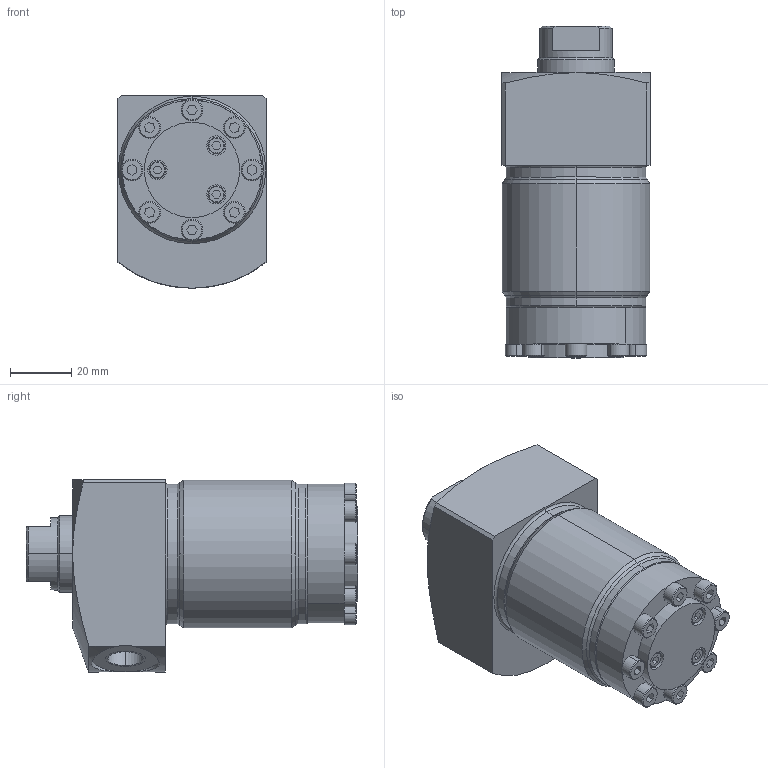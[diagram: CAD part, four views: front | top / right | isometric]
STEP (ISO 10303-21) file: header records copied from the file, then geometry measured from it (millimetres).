
FILE_DESCRIPTION((''),'2;1');
FILE_NAME('PTSD-92_ASM','2011-12-02T',('chad.steele'),(''),'PRO/ENGINEER BY PARAMETRIC TECHNOLOGY CORPORATION, 2010040','PRO/ENGINEER BY PARAMETRIC TECHNOLOGY CORPORATION, 2010040','');
FILE_SCHEMA(('CONFIG_CONTROL_DESIGN'));
Length unit declared in the file: millimetre
Products named in the file (7): CZ361030; CZ363044; CZ393225; CCA319028-1A; CCA421028-1A; DA12024040; PTSD-92_ASM
Assembly tree (15 placements, depth 2):
  PTSD-92_ASM
    CZ361030
    CZ363044
    CZ393225
    CCA319028-1A  x3
    CCA421028-1A  x8
    DA12024040
Bounding box: 48.2 x 108.05 x 62.65 mm (x, y, z)
Volume: 173984.7 mm3; surface area: 60975.3 mm2
Topology: 15 solids, 27 shells, 420 faces, 946 edges, 596 vertices
Faces by surface type: cylinder 165, plane 157, cone 86, torus 12
Entity records: 7765 total; most frequent: DIRECTION 1467, CARTESIAN_POINT 1412, ORIENTED_EDGE 1116, AXIS2_PLACEMENT_3D 617, EDGE_CURVE 584, VERTEX_POINT 380, CIRCLE 333, EDGE_LOOP 326
